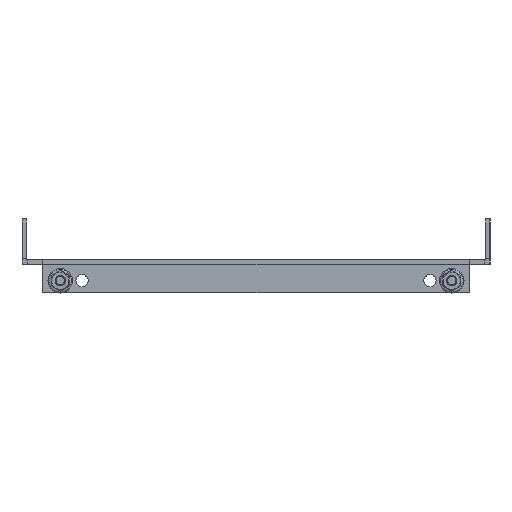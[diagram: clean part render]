
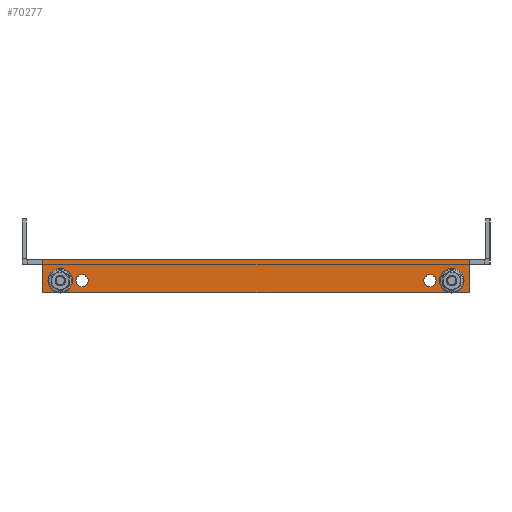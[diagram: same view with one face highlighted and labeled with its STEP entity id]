
A CAD part, left-side view. The second image highlights one B-rep face of the part: STEP entity #70277.
In plain terms, the highlighted planar face has unit normal (-1, 0, 0).
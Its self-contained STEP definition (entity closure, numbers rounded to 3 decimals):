
#56764 = VERTEX_POINT('',#56765);
#56765 = CARTESIAN_POINT('',(-550.,122.5,2.5));
#56771 = EDGE_CURVE('',#56772,#56764,#56774,.T.);
#56772 = VERTEX_POINT('',#56773);
#56773 = CARTESIAN_POINT('',(-550.,-122.5,2.5));
#56774 = LINE('',#56775,#56776);
#56775 = CARTESIAN_POINT('',(-550.,-132.,2.5));
#56776 = VECTOR('',#56777,1.);
#56777 = DIRECTION('',(-0.,1.,-0.));
#70156 = VERTEX_POINT('',#70157);
#70157 = CARTESIAN_POINT('',(-550.,-122.5,-0.6));
#70172 = EDGE_CURVE('',#70156,#56772,#70173,.T.);
#70173 = LINE('',#70174,#70175);
#70174 = CARTESIAN_POINT('',(-550.,-122.5,-0.6));
#70175 = VECTOR('',#70176,1.);
#70176 = DIRECTION('',(0.,-0.,1.));
#70196 = VERTEX_POINT('',#70197);
#70197 = CARTESIAN_POINT('',(-550.,122.5,-0.6));
#70203 = EDGE_CURVE('',#70196,#56764,#70204,.T.);
#70204 = LINE('',#70205,#70206);
#70205 = CARTESIAN_POINT('',(-550.,122.5,0.));
#70206 = VECTOR('',#70207,1.);
#70207 = DIRECTION('',(0.,0.,1.));
#70219 = EDGE_CURVE('',#70220,#70196,#70222,.T.);
#70220 = VERTEX_POINT('',#70221);
#70221 = CARTESIAN_POINT('',(-550.,122.5,-16.5));
#70222 = LINE('',#70223,#70224);
#70223 = CARTESIAN_POINT('',(-550.,122.5,0.));
#70224 = VECTOR('',#70225,1.);
#70225 = DIRECTION('',(0.,-0.,1.));
#70259 = EDGE_CURVE('',#70156,#70260,#70262,.T.);
#70260 = VERTEX_POINT('',#70261);
#70261 = CARTESIAN_POINT('',(-550.,-122.5,-16.5));
#70262 = LINE('',#70263,#70264);
#70263 = CARTESIAN_POINT('',(-550.,-122.5,-16.5));
#70264 = VECTOR('',#70265,1.);
#70265 = DIRECTION('',(0.,-0.,-1.));
#70277 = ADVANCED_FACE('',(#70278,#70298,#70318,#70329,#70340),#70353,
  .T.);
#70278 = FACE_BOUND('',#70279,.T.);
#70279 = EDGE_LOOP('',(#70280,#70291));
#70280 = ORIENTED_EDGE('',*,*,#70281,.F.);
#70281 = EDGE_CURVE('',#70282,#70284,#70286,.T.);
#70282 = VERTEX_POINT('',#70283);
#70283 = CARTESIAN_POINT('',(-550.,-112.5,-13.));
#70284 = VERTEX_POINT('',#70285);
#70285 = CARTESIAN_POINT('',(-550.,-112.5,-6.));
#70286 = CIRCLE('',#70287,3.5);
#70287 = AXIS2_PLACEMENT_3D('',#70288,#70289,#70290);
#70288 = CARTESIAN_POINT('',(-550.,-112.5,-9.5));
#70289 = DIRECTION('',(-1.,0.,0.));
#70290 = DIRECTION('',(0.,0.,-1.));
#70291 = ORIENTED_EDGE('',*,*,#70292,.F.);
#70292 = EDGE_CURVE('',#70284,#70282,#70293,.T.);
#70293 = CIRCLE('',#70294,3.5);
#70294 = AXIS2_PLACEMENT_3D('',#70295,#70296,#70297);
#70295 = CARTESIAN_POINT('',(-550.,-112.5,-9.5));
#70296 = DIRECTION('',(-1.,0.,0.));
#70297 = DIRECTION('',(0.,0.,-1.));
#70298 = FACE_BOUND('',#70299,.T.);
#70299 = EDGE_LOOP('',(#70300,#70311));
#70300 = ORIENTED_EDGE('',*,*,#70301,.F.);
#70301 = EDGE_CURVE('',#70302,#70304,#70306,.T.);
#70302 = VERTEX_POINT('',#70303);
#70303 = CARTESIAN_POINT('',(-550.,-100.,-13.));
#70304 = VERTEX_POINT('',#70305);
#70305 = CARTESIAN_POINT('',(-550.,-100.,-6.));
#70306 = CIRCLE('',#70307,3.5);
#70307 = AXIS2_PLACEMENT_3D('',#70308,#70309,#70310);
#70308 = CARTESIAN_POINT('',(-550.,-100.,-9.5));
#70309 = DIRECTION('',(-1.,0.,0.));
#70310 = DIRECTION('',(0.,0.,-1.));
#70311 = ORIENTED_EDGE('',*,*,#70312,.F.);
#70312 = EDGE_CURVE('',#70304,#70302,#70313,.T.);
#70313 = CIRCLE('',#70314,3.5);
#70314 = AXIS2_PLACEMENT_3D('',#70315,#70316,#70317);
#70315 = CARTESIAN_POINT('',(-550.,-100.,-9.5));
#70316 = DIRECTION('',(-1.,0.,0.));
#70317 = DIRECTION('',(0.,0.,-1.));
#70318 = FACE_BOUND('',#70319,.T.);
#70319 = EDGE_LOOP('',(#70320));
#70320 = ORIENTED_EDGE('',*,*,#70321,.F.);
#70321 = EDGE_CURVE('',#70322,#70322,#70324,.T.);
#70322 = VERTEX_POINT('',#70323);
#70323 = CARTESIAN_POINT('',(-550.,100.,-6.));
#70324 = CIRCLE('',#70325,3.5);
#70325 = AXIS2_PLACEMENT_3D('',#70326,#70327,#70328);
#70326 = CARTESIAN_POINT('',(-550.,100.,-9.5));
#70327 = DIRECTION('',(-1.,0.,0.));
#70328 = DIRECTION('',(0.,0.,1.));
#70329 = FACE_BOUND('',#70330,.T.);
#70330 = EDGE_LOOP('',(#70331));
#70331 = ORIENTED_EDGE('',*,*,#70332,.F.);
#70332 = EDGE_CURVE('',#70333,#70333,#70335,.T.);
#70333 = VERTEX_POINT('',#70334);
#70334 = CARTESIAN_POINT('',(-550.,112.5,-6.));
#70335 = CIRCLE('',#70336,3.5);
#70336 = AXIS2_PLACEMENT_3D('',#70337,#70338,#70339);
#70337 = CARTESIAN_POINT('',(-550.,112.5,-9.5));
#70338 = DIRECTION('',(-1.,0.,0.));
#70339 = DIRECTION('',(0.,0.,1.));
#70340 = FACE_BOUND('',#70341,.T.);
#70341 = EDGE_LOOP('',(#70342,#70343,#70344,#70345,#70346,#70347));
#70342 = ORIENTED_EDGE('',*,*,#70259,.F.);
#70343 = ORIENTED_EDGE('',*,*,#70172,.T.);
#70344 = ORIENTED_EDGE('',*,*,#56771,.T.);
#70345 = ORIENTED_EDGE('',*,*,#70203,.F.);
#70346 = ORIENTED_EDGE('',*,*,#70219,.F.);
#70347 = ORIENTED_EDGE('',*,*,#70348,.F.);
#70348 = EDGE_CURVE('',#70260,#70220,#70349,.T.);
#70349 = LINE('',#70350,#70351);
#70350 = CARTESIAN_POINT('',(-550.,122.5,-16.5));
#70351 = VECTOR('',#70352,1.);
#70352 = DIRECTION('',(-0.,1.,-0.));
#70353 = PLANE('',#70354);
#70354 = AXIS2_PLACEMENT_3D('',#70355,#70356,#70357);
#70355 = CARTESIAN_POINT('',(-550.,122.5,0.));
#70356 = DIRECTION('',(-1.,0.,0.));
#70357 = DIRECTION('',(0.,0.,1.));
